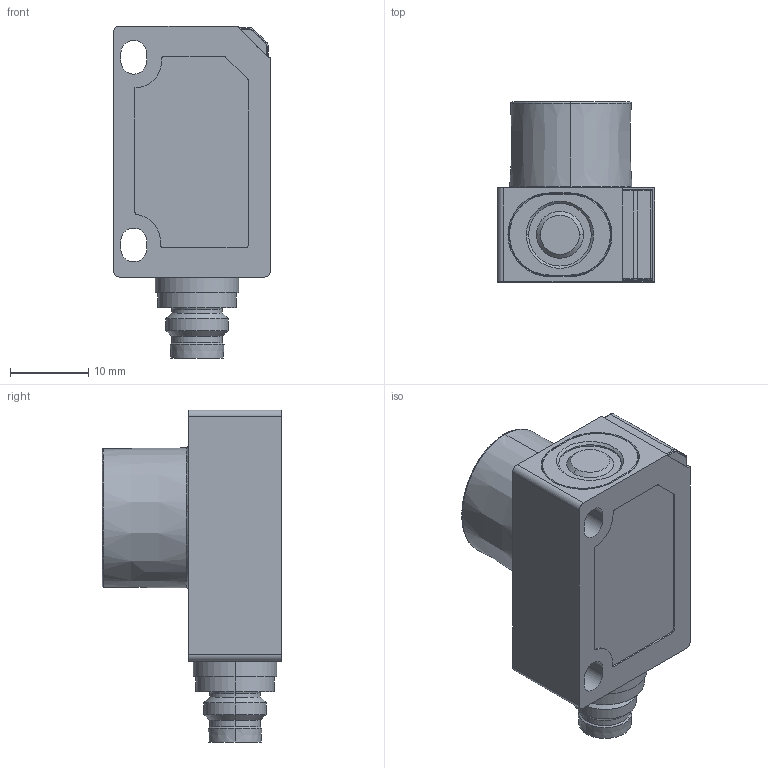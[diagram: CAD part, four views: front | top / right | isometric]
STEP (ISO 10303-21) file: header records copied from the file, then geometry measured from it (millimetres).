
FILE_DESCRIPTION (( 'STEP AP214' ), '1' );
FILE_NAME ('zws-25_CX_QS.STEP', '2025-04-25T10:15:38', ( '' ), ( '' ), 'SwSTEP 2.0', 'SolidWorks 2024', '' );
FILE_SCHEMA (( 'AUTOMOTIVE_DESIGN' ));
Length unit declared in the file: millimetre
Products named in the file (1): zws-25_CX_QS
Bounding box: 20.11 x 23 x 42.45 mm (x, y, z)
Volume: 10163.5 mm3; surface area: 3808.8 mm2
Topology: 1 solids, 1 shells, 157 faces, 390 edges, 244 vertices
Faces by surface type: cylinder 63, plane 58, cone 16, sphere 8, bspline 6, torus 6
Entity records: 6776 total; most frequent: CARTESIAN_POINT 1318, DIRECTION 806, ORIENTED_EDGE 748, EDGE_CURVE 374, AXIS2_PLACEMENT_3D 302, VERTEX_POINT 236, VECTOR 202, LINE 202
